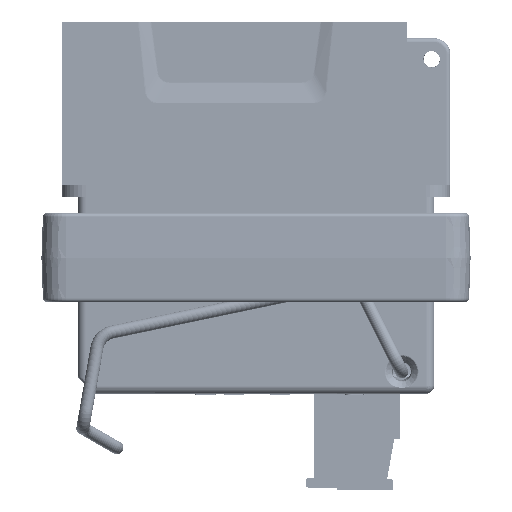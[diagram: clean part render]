
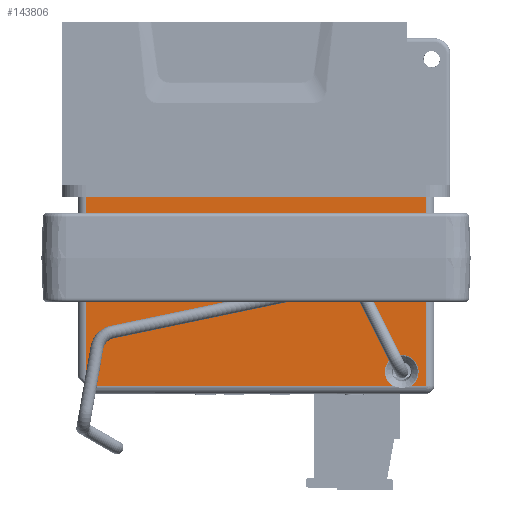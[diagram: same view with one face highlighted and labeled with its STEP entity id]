
A CAD part, left-side view. The second image highlights one B-rep face of the part: STEP entity #143806.
In plain terms, the highlighted planar face has unit normal (-1, 0, 0).
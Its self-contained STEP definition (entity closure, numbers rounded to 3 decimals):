
#2969 = CARTESIAN_POINT ( 'NONE',  ( -45.5, -18., -25. ) ) ;
#4731 = DIRECTION ( 'NONE',  ( 0., 0., 1. ) ) ;
#8450 = VERTEX_POINT ( 'NONE', #281823 ) ;
#8652 = VECTOR ( 'NONE', #55945, 1000. ) ;
#18097 = EDGE_CURVE ( 'NONE', #35911, #8450, #339159, .T. ) ;
#19832 = AXIS2_PLACEMENT_3D ( 'NONE', #195850, #140546, #194024 ) ;
#20218 = ORIENTED_EDGE ( 'NONE', *, *, #49410, .T. ) ;
#22863 = FACE_OUTER_BOUND ( 'NONE', #281402, .T. ) ;
#27054 = CARTESIAN_POINT ( 'NONE',  ( -45.5, -21., -27.7 ) ) ;
#30681 = DIRECTION ( 'NONE',  ( 0., 0., 1. ) ) ;
#33869 = EDGE_CURVE ( 'NONE', #176177, #61818, #126629, .T. ) ;
#34322 = LINE ( 'NONE', #27054, #62289 ) ;
#34814 = CARTESIAN_POINT ( 'NONE',  ( -45.5, 21., 0. ) ) ;
#35911 = VERTEX_POINT ( 'NONE', #313501 ) ;
#38854 = EDGE_CURVE ( 'NONE', #330291, #241374, #276161, .T. ) ;
#41867 = CARTESIAN_POINT ( 'NONE',  ( -45.5, 20.646, -26.346 ) ) ;
#43248 = PLANE ( 'NONE',  #19832 ) ;
#49410 = EDGE_CURVE ( 'NONE', #8450, #241374, #34322, .T. ) ;
#54128 = CARTESIAN_POINT ( 'NONE',  ( -45.5, -22., -26.7 ) ) ;
#55945 = DIRECTION ( 'NONE',  ( 0., -1., 0. ) ) ;
#57458 = AXIS2_PLACEMENT_3D ( 'NONE', #2969, #89272, #4731 ) ;
#61545 = CARTESIAN_POINT ( 'NONE',  ( -45.5, -21., 0. ) ) ;
#61818 = VERTEX_POINT ( 'NONE', #152982 ) ;
#62289 = VECTOR ( 'NONE', #30681, 1000. ) ;
#79417 = VERTEX_POINT ( 'NONE', #343622 ) ;
#82860 = CARTESIAN_POINT ( 'NONE',  ( -45.5, -22., 0. ) ) ;
#89272 = DIRECTION ( 'NONE',  ( 1., 0., 0. ) ) ;
#91189 = ORIENTED_EDGE ( 'NONE', *, *, #18097, .T. ) ;
#104385 = VECTOR ( 'NONE', #240770, 1000. ) ;
#113841 = EDGE_CURVE ( 'NONE', #330291, #79417, #132597, .T. ) ;
#126629 = LINE ( 'NONE', #205955, #351806 ) ;
#128357 = LINE ( 'NONE', #41867, #104385 ) ;
#132597 = LINE ( 'NONE', #244975, #267022 ) ;
#139970 = DIRECTION ( 'NONE',  ( 0., -1., 0. ) ) ;
#140546 = DIRECTION ( 'NONE',  ( -1., 0., 0. ) ) ;
#143806 = ADVANCED_FACE ( 'NONE', ( #22863 ), #43248, .T. ) ;
#147232 = ORIENTED_EDGE ( 'NONE', *, *, #310608, .T. ) ;
#152982 = CARTESIAN_POINT ( 'NONE',  ( -45.5, -16.797, -26.7 ) ) ;
#159143 = ORIENTED_EDGE ( 'NONE', *, *, #33869, .T. ) ;
#174491 = EDGE_CURVE ( 'NONE', #79417, #176177, #128357, .T. ) ;
#176177 = VERTEX_POINT ( 'NONE', #339679 ) ;
#180014 = DIRECTION ( 'NONE',  ( 0., -1., 0. ) ) ;
#194024 = DIRECTION ( 'NONE',  ( 0., 0., 1. ) ) ;
#195850 = CARTESIAN_POINT ( 'NONE',  ( -45.5, -22., -27.7 ) ) ;
#205955 = CARTESIAN_POINT ( 'NONE',  ( -45.5, -22., -26.7 ) ) ;
#227372 = ORIENTED_EDGE ( 'NONE', *, *, #174491, .T. ) ;
#229409 = ORIENTED_EDGE ( 'NONE', *, *, #38854, .F. ) ;
#233210 = VECTOR ( 'NONE', #139970, 1000. ) ;
#240770 = DIRECTION ( 'NONE',  ( 0., -0.707, -0.707 ) ) ;
#241374 = VERTEX_POINT ( 'NONE', #61545 ) ;
#244975 = CARTESIAN_POINT ( 'NONE',  ( -45.5, 21., -27.7 ) ) ;
#267022 = VECTOR ( 'NONE', #356836, 1000. ) ;
#276161 = LINE ( 'NONE', #82860, #233210 ) ;
#281402 = EDGE_LOOP ( 'NONE', ( #159143, #147232, #91189, #20218, #229409, #356079, #227372 ) ) ;
#281823 = CARTESIAN_POINT ( 'NONE',  ( -45.5, -21., -26.7 ) ) ;
#310608 = EDGE_CURVE ( 'NONE', #61818, #35911, #362753, .T. ) ;
#313501 = CARTESIAN_POINT ( 'NONE',  ( -45.5, -19.203, -26.7 ) ) ;
#330291 = VERTEX_POINT ( 'NONE', #34814 ) ;
#339159 = LINE ( 'NONE', #54128, #8652 ) ;
#339679 = CARTESIAN_POINT ( 'NONE',  ( -45.5, 20.293, -26.7 ) ) ;
#343622 = CARTESIAN_POINT ( 'NONE',  ( -45.5, 21., -25.993 ) ) ;
#351806 = VECTOR ( 'NONE', #180014, 1000. ) ;
#356079 = ORIENTED_EDGE ( 'NONE', *, *, #113841, .T. ) ;
#356836 = DIRECTION ( 'NONE',  ( 0., 0., -1. ) ) ;
#362753 = CIRCLE ( 'NONE', #57458, 2.083 ) ;
